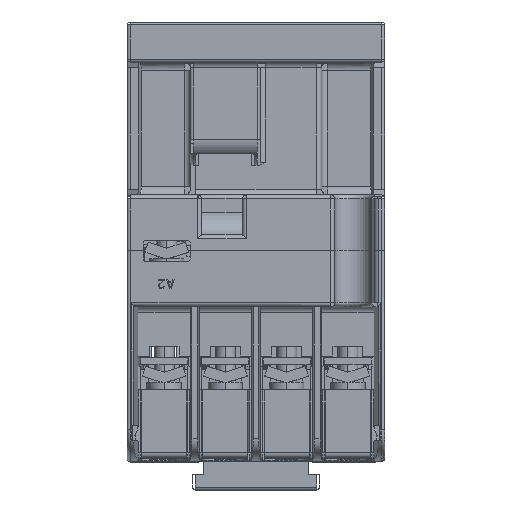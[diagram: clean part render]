
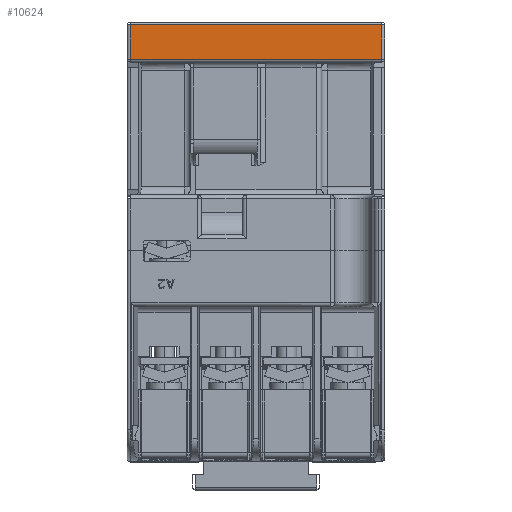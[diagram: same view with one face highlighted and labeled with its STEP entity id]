
A CAD part, left-side view. The second image highlights one B-rep face of the part: STEP entity #10624.
In plain terms, the highlighted planar face has unit normal (-1, 0, 0).
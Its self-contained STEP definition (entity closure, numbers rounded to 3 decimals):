
#537=DIRECTION('',(0.,1.,0.));
#538=VECTOR('',#537,44.);
#539=CARTESIAN_POINT('',(-35.5,-22.,39.4));
#540=LINE('',#539,#538);
#541=DIRECTION('',(0.,0.,-1.));
#542=VECTOR('',#541,6.);
#543=CARTESIAN_POINT('',(-35.5,-22.,39.4));
#544=LINE('',#543,#542);
#545=DIRECTION('',(0.,1.,0.));
#546=VECTOR('',#545,44.);
#547=CARTESIAN_POINT('',(-35.5,-22.,33.4));
#548=LINE('',#547,#546);
#549=DIRECTION('',(0.,0.,1.));
#550=VECTOR('',#549,6.);
#551=CARTESIAN_POINT('',(-35.5,22.,33.4));
#552=LINE('',#551,#550);
#10029=CARTESIAN_POINT('',(-35.5,-22.,33.4));
#10030=CARTESIAN_POINT('',(-35.5,22.,33.4));
#10031=VERTEX_POINT('',#10029);
#10032=VERTEX_POINT('',#10030);
#10049=CARTESIAN_POINT('',(-35.5,22.,39.4));
#10051=VERTEX_POINT('',#10049);
#10053=CARTESIAN_POINT('',(-35.5,-22.,39.4));
#10054=VERTEX_POINT('',#10053);
#10609=CARTESIAN_POINT('',(-35.5,-22.5,0.));
#10610=DIRECTION('',(-1.,0.,0.));
#10611=DIRECTION('',(0.,0.,1.));
#10612=AXIS2_PLACEMENT_3D('',#10609,#10610,#10611);
#10613=PLANE('',#10612);
#10615=ORIENTED_EDGE('',*,*,#10614,.F.);
#10617=ORIENTED_EDGE('',*,*,#10616,.T.);
#10619=ORIENTED_EDGE('',*,*,#10618,.T.);
#10621=ORIENTED_EDGE('',*,*,#10620,.T.);
#10622=EDGE_LOOP('',(#10615,#10617,#10619,#10621));
#10623=FACE_OUTER_BOUND('',#10622,.F.);
#10624=ADVANCED_FACE('',(#10623),#10613,.T.);
#10614=EDGE_CURVE('',#10054,#10051,#540,.T.);
#10616=EDGE_CURVE('',#10054,#10031,#544,.T.);
#10618=EDGE_CURVE('',#10031,#10032,#548,.T.);
#10620=EDGE_CURVE('',#10032,#10051,#552,.T.);
